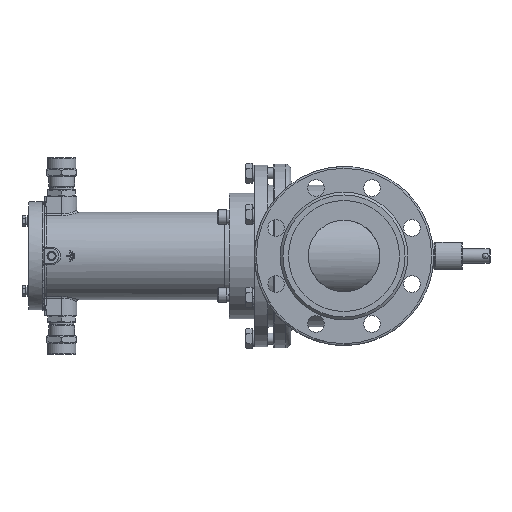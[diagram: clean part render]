
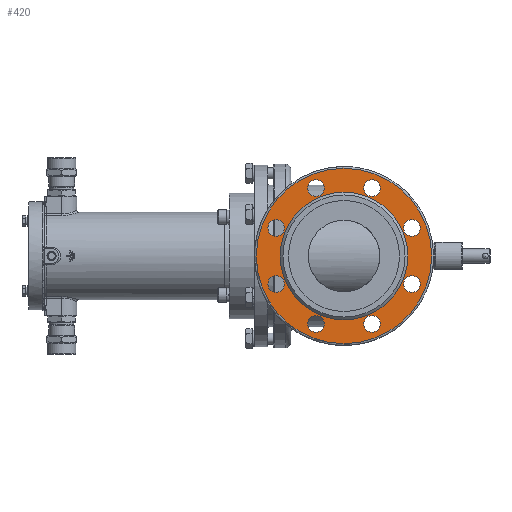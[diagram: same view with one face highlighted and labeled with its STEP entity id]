
A CAD part, left-side view. The second image highlights one B-rep face of the part: STEP entity #420.
In plain terms, the highlighted planar face has unit normal (-1, 0, 0).
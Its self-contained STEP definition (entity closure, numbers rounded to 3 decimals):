
#420=ADVANCED_FACE('',(#8538,#8540,#8542,#8544,#8546,#8548,#8550,#8552,#8554,#8556),
#8558,.T.);
#8538=FACE_BOUND('',#8539,.T.);
#8539=EDGE_LOOP('',(#24937));
#8540=FACE_BOUND('',#8541,.T.);
#8541=EDGE_LOOP('',(#24938));
#8542=FACE_BOUND('',#8543,.T.);
#8543=EDGE_LOOP('',(#24939));
#8544=FACE_BOUND('',#8545,.T.);
#8545=EDGE_LOOP('',(#24940));
#8546=FACE_BOUND('',#8547,.T.);
#8547=EDGE_LOOP('',(#24941));
#8548=FACE_BOUND('',#8549,.T.);
#8549=EDGE_LOOP('',(#24942));
#8550=FACE_BOUND('',#8551,.T.);
#8551=EDGE_LOOP('',(#24943));
#8552=FACE_BOUND('',#8553,.T.);
#8553=EDGE_LOOP('',(#24944));
#8554=FACE_BOUND('',#8555,.T.);
#8555=EDGE_LOOP('',(#24945));
#8556=FACE_OUTER_BOUND('',#8557,.T.);
#8557=EDGE_LOOP('',(#24946));
#8558=PLANE('',#8559);
#8559=AXIS2_PLACEMENT_3D('',#8560,#8561,#8562);
#8560=CARTESIAN_POINT('',(-151.,0.,0.));
#8561=DIRECTION('',(-1.,0.,0.));
#8562=DIRECTION('',(0.,1.,0.));
#24937=ORIENTED_EDGE('',*,*,#37138,.T.);
#24938=ORIENTED_EDGE('',*,*,#37136,.T.);
#24939=ORIENTED_EDGE('',*,*,#37134,.T.);
#24940=ORIENTED_EDGE('',*,*,#37132,.T.);
#24941=ORIENTED_EDGE('',*,*,#37130,.T.);
#24942=ORIENTED_EDGE('',*,*,#37128,.T.);
#24943=ORIENTED_EDGE('',*,*,#37126,.T.);
#24944=ORIENTED_EDGE('',*,*,#37124,.T.);
#24945=ORIENTED_EDGE('',*,*,#37189,.F.);
#24946=ORIENTED_EDGE('',*,*,#37190,.T.);
#37124=EDGE_CURVE('',#42812,#42812,#42814,.T.);
#37126=EDGE_CURVE('',#42815,#42815,#42817,.T.);
#37128=EDGE_CURVE('',#42818,#42818,#42820,.T.);
#37130=EDGE_CURVE('',#42821,#42821,#42823,.T.);
#37132=EDGE_CURVE('',#42824,#42824,#42826,.T.);
#37134=EDGE_CURVE('',#42827,#42827,#42829,.T.);
#37136=EDGE_CURVE('',#42830,#42830,#42832,.T.);
#37138=EDGE_CURVE('',#42833,#42833,#42835,.T.);
#37189=EDGE_CURVE('',#42917,#42917,#42918,.T.);
#37190=EDGE_CURVE('',#42919,#42919,#42920,.T.);
#42812=VERTEX_POINT('',#57234);
#42814=CIRCLE('',#57238,9.);
#42815=VERTEX_POINT('',#57242);
#42817=CIRCLE('',#57246,9.);
#42818=VERTEX_POINT('',#57250);
#42820=CIRCLE('',#57254,9.);
#42821=VERTEX_POINT('',#57258);
#42823=CIRCLE('',#57262,9.);
#42824=VERTEX_POINT('',#57266);
#42826=CIRCLE('',#57270,9.);
#42827=VERTEX_POINT('',#57274);
#42829=CIRCLE('',#57278,9.);
#42830=VERTEX_POINT('',#57282);
#42832=CIRCLE('',#57286,9.);
#42833=VERTEX_POINT('',#57290);
#42835=CIRCLE('',#57294,9.);
#42917=VERTEX_POINT('',#57711);
#42918=CIRCLE('',#57712,69.5);
#42919=VERTEX_POINT('',#57716);
#42920=CIRCLE('',#57717,95.5);
#57234=CARTESIAN_POINT('',(-151.,30.615,64.91));
#57238=AXIS2_PLACEMENT_3D('',#57239,#57240,#57241);
#57239=CARTESIAN_POINT('',(-151.,30.615,73.91));
#57240=DIRECTION('',(1.,0.,0.));
#57241=DIRECTION('',(0.,-1.,0.));
#57242=CARTESIAN_POINT('',(-151.,30.615,-82.91));
#57246=AXIS2_PLACEMENT_3D('',#57247,#57248,#57249);
#57247=CARTESIAN_POINT('',(-151.,30.615,-73.91));
#57248=DIRECTION('',(1.,0.,0.));
#57249=DIRECTION('',(0.,-1.,0.));
#57250=CARTESIAN_POINT('',(-151.,73.91,21.615));
#57254=AXIS2_PLACEMENT_3D('',#57255,#57256,#57257);
#57255=CARTESIAN_POINT('',(-151.,73.91,30.615));
#57256=DIRECTION('',(1.,0.,0.));
#57257=DIRECTION('',(0.,-1.,0.));
#57258=CARTESIAN_POINT('',(-151.,-30.615,-82.91));
#57262=AXIS2_PLACEMENT_3D('',#57263,#57264,#57265);
#57263=CARTESIAN_POINT('',(-151.,-30.615,-73.91));
#57264=DIRECTION('',(1.,0.,0.));
#57265=DIRECTION('',(0.,-1.,0.));
#57266=CARTESIAN_POINT('',(-151.,-73.91,21.615));
#57270=AXIS2_PLACEMENT_3D('',#57271,#57272,#57273);
#57271=CARTESIAN_POINT('',(-151.,-73.91,30.615));
#57272=DIRECTION('',(1.,0.,0.));
#57273=DIRECTION('',(0.,-1.,0.));
#57274=CARTESIAN_POINT('',(-151.,-30.615,64.91));
#57278=AXIS2_PLACEMENT_3D('',#57279,#57280,#57281);
#57279=CARTESIAN_POINT('',(-151.,-30.615,73.91));
#57280=DIRECTION('',(1.,0.,0.));
#57281=DIRECTION('',(0.,-1.,0.));
#57282=CARTESIAN_POINT('',(-151.,73.91,-39.615));
#57286=AXIS2_PLACEMENT_3D('',#57287,#57288,#57289);
#57287=CARTESIAN_POINT('',(-151.,73.91,-30.615));
#57288=DIRECTION('',(1.,0.,0.));
#57289=DIRECTION('',(0.,-1.,0.));
#57290=CARTESIAN_POINT('',(-151.,-73.91,-39.615));
#57294=AXIS2_PLACEMENT_3D('',#57295,#57296,#57297);
#57295=CARTESIAN_POINT('',(-151.,-73.91,-30.615));
#57296=DIRECTION('',(1.,0.,0.));
#57297=DIRECTION('',(0.,-1.,0.));
#57711=CARTESIAN_POINT('',(-151.,-69.5,0.));
#57712=AXIS2_PLACEMENT_3D('',#57713,#57714,#57715);
#57713=CARTESIAN_POINT('',(-151.,0.,0.));
#57714=DIRECTION('',(-1.,0.,0.));
#57715=DIRECTION('',(0.,1.,0.));
#57716=CARTESIAN_POINT('',(-151.,-95.5,0.));
#57717=AXIS2_PLACEMENT_3D('',#57718,#57719,#57720);
#57718=CARTESIAN_POINT('',(-151.,0.,0.));
#57719=DIRECTION('',(-1.,0.,0.));
#57720=DIRECTION('',(0.,1.,0.));
